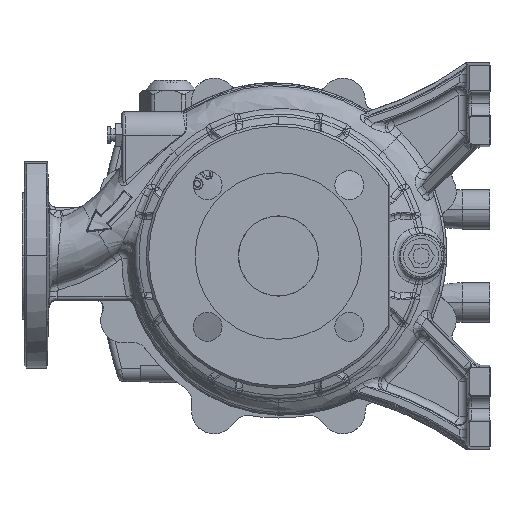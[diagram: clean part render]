
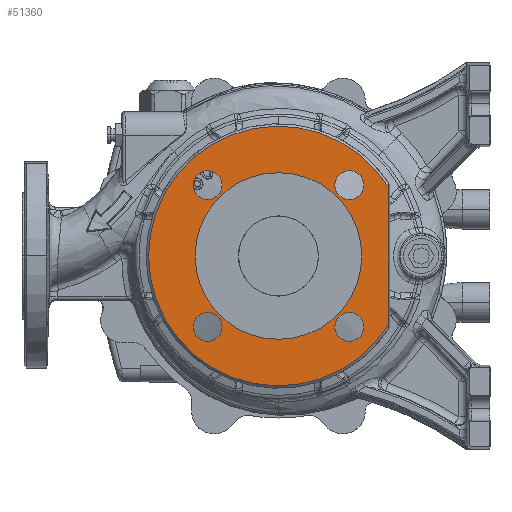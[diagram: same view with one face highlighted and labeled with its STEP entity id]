
A CAD part, left-side view. The second image highlights one B-rep face of the part: STEP entity #51360.
In plain terms, the highlighted planar face has unit normal (-1, 0, 0).
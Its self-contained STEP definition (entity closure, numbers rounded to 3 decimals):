
#2308 = DIRECTION ( 'NONE',  ( -1., 0., 0. ) ) ;
#2569 = CARTESIAN_POINT ( 'NONE',  ( -264.764, 174.395, 44.194 ) ) ;
#3484 = DIRECTION ( 'NONE',  ( 0., 1., 0. ) ) ;
#3525 = CARTESIAN_POINT ( 'NONE',  ( -264.764, 139.201, 0. ) ) ;
#4543 = DIRECTION ( 'NONE',  ( -1., 0., 0. ) ) ;
#5474 = CIRCLE ( 'NONE', #93419, 9. ) ;
#6104 = CIRCLE ( 'NONE', #135653, 9. ) ;
#8086 = VERTEX_POINT ( 'NONE', #48440 ) ;
#8916 = EDGE_CURVE ( 'NONE', #73816, #28839, #91024, .T. ) ;
#8972 = CARTESIAN_POINT ( 'NONE',  ( -264.764, 70.632, 0. ) ) ;
#10230 = FACE_OUTER_BOUND ( 'NONE', #45417, .T. ) ;
#12209 = DIRECTION ( 'NONE',  ( 0., 0., 1. ) ) ;
#12907 = CARTESIAN_POINT ( 'NONE',  ( -264.764, 183.395, 44.194 ) ) ;
#13828 = ORIENTED_EDGE ( 'NONE', *, *, #67674, .F. ) ;
#14171 = CARTESIAN_POINT ( 'NONE',  ( -264.764, 183.395, -44.194 ) ) ;
#17425 = CIRCLE ( 'NONE', #74336, 9. ) ;
#17604 = EDGE_CURVE ( 'NONE', #22963, #73816, #131404, .T. ) ;
#20374 = DIRECTION ( 'NONE',  ( 0., 1., 0. ) ) ;
#22023 = VERTEX_POINT ( 'NONE', #155516 ) ;
#22963 = VERTEX_POINT ( 'NONE', #89925 ) ;
#23205 = DIRECTION ( 'NONE',  ( 0., 1., 0. ) ) ;
#23330 = VERTEX_POINT ( 'NONE', #116431 ) ;
#24047 = EDGE_LOOP ( 'NONE', ( #13828, #144142 ) ) ;
#28839 = VERTEX_POINT ( 'NONE', #88974 ) ;
#28936 = CARTESIAN_POINT ( 'NONE',  ( -264.764, 192.395, -44.194 ) ) ;
#29852 = EDGE_CURVE ( 'NONE', #96187, #8086, #109710, .T. ) ;
#30057 = EDGE_CURVE ( 'NONE', #23330, #119607, #6104, .T. ) ;
#31951 = CARTESIAN_POINT ( 'NONE',  ( -264.764, 191.201, 0. ) ) ;
#32534 = CARTESIAN_POINT ( 'NONE',  ( -264.764, 95.007, 44.194 ) ) ;
#33669 = AXIS2_PLACEMENT_3D ( 'NONE', #12907, #74488, #89015 ) ;
#34547 = FACE_BOUND ( 'NONE', #24047, .T. ) ;
#35386 = DIRECTION ( 'NONE',  ( -1., 0., 0. ) ) ;
#35720 = CARTESIAN_POINT ( 'NONE',  ( -264.764, 86.007, -44.194 ) ) ;
#36952 = AXIS2_PLACEMENT_3D ( 'NONE', #146467, #35386, #23205 ) ;
#38919 = DIRECTION ( 'NONE',  ( 0., 1., 0. ) ) ;
#38971 = VERTEX_POINT ( 'NONE', #28936 ) ;
#40008 = DIRECTION ( 'NONE',  ( -1., 0., 0. ) ) ;
#40206 = AXIS2_PLACEMENT_3D ( 'NONE', #127315, #137886, #137096 ) ;
#40510 = DIRECTION ( 'NONE',  ( 0., 1., 0. ) ) ;
#41249 = CARTESIAN_POINT ( 'NONE',  ( -264.764, 95.007, 53.194 ) ) ;
#43068 = AXIS2_PLACEMENT_3D ( 'NONE', #14171, #66758, #88688 ) ;
#43507 = CARTESIAN_POINT ( 'NONE',  ( -264.764, 220.201, 0. ) ) ;
#45301 = ORIENTED_EDGE ( 'NONE', *, *, #109708, .T. ) ;
#45417 = EDGE_LOOP ( 'NONE', ( #101830, #153378, #74626 ) ) ;
#47475 = FACE_BOUND ( 'NONE', #62617, .T. ) ;
#48123 = ORIENTED_EDGE ( 'NONE', *, *, #97993, .T. ) ;
#48440 = CARTESIAN_POINT ( 'NONE',  ( -264.764, 87.201, 0. ) ) ;
#49208 = EDGE_CURVE ( 'NONE', #115737, #60529, #5474, .T. ) ;
#51331 = CARTESIAN_POINT ( 'NONE',  ( -264.764, 95.007, -44.194 ) ) ;
#51360 = ADVANCED_FACE ( 'NONE', ( #34547, #83977, #10230, #59645, #158606, #47475 ), #96980, .T. ) ;
#51840 = DIRECTION ( 'NONE',  ( -1., 0., 0. ) ) ;
#56862 = EDGE_CURVE ( 'NONE', #59321, #38971, #112617, .T. ) ;
#57288 = DIRECTION ( 'NONE',  ( 1., 0., 0. ) ) ;
#59321 = VERTEX_POINT ( 'NONE', #110160 ) ;
#59645 = FACE_BOUND ( 'NONE', #61581, .T. ) ;
#60017 = DIRECTION ( 'NONE',  ( 0., 1., 0. ) ) ;
#60529 = VERTEX_POINT ( 'NONE', #134521 ) ;
#61581 = EDGE_LOOP ( 'NONE', ( #78783, #124566 ) ) ;
#62617 = EDGE_LOOP ( 'NONE', ( #45301, #48123 ) ) ;
#66758 = DIRECTION ( 'NONE',  ( -1., 0., 0. ) ) ;
#67674 = EDGE_CURVE ( 'NONE', #38971, #59321, #131070, .T. ) ;
#69011 = EDGE_CURVE ( 'NONE', #60529, #115737, #17425, .T. ) ;
#71055 = CARTESIAN_POINT ( 'NONE',  ( -264.764, 95.007, 44.194 ) ) ;
#73795 = CARTESIAN_POINT ( 'NONE',  ( -264.764, 95.007, -44.194 ) ) ;
#73816 = VERTEX_POINT ( 'NONE', #43507 ) ;
#74336 = AXIS2_PLACEMENT_3D ( 'NONE', #73795, #146868, #60017 ) ;
#74488 = DIRECTION ( 'NONE',  ( 1., 0., 0. ) ) ;
#74626 = ORIENTED_EDGE ( 'NONE', *, *, #8916, .T. ) ;
#75692 = DIRECTION ( 'NONE',  ( 0., 1., 0. ) ) ;
#76981 = CARTESIAN_POINT ( 'NONE',  ( -264.764, 139.201, 0. ) ) ;
#78315 = ORIENTED_EDGE ( 'NONE', *, *, #49208, .T. ) ;
#78783 = ORIENTED_EDGE ( 'NONE', *, *, #87834, .F. ) ;
#79880 = DIRECTION ( 'NONE',  ( 0., 1., 0. ) ) ;
#81938 = EDGE_LOOP ( 'NONE', ( #159411, #78315 ) ) ;
#81972 = DIRECTION ( 'NONE',  ( 1., 0., 0. ) ) ;
#83265 = ORIENTED_EDGE ( 'NONE', *, *, #30057, .T. ) ;
#83977 = FACE_BOUND ( 'NONE', #81938, .T. ) ;
#86263 = VERTEX_POINT ( 'NONE', #2569 ) ;
#87834 = EDGE_CURVE ( 'NONE', #8086, #96187, #93040, .T. ) ;
#88688 = DIRECTION ( 'NONE',  ( 0., 1., 0. ) ) ;
#88974 = CARTESIAN_POINT ( 'NONE',  ( -264.764, 70.632, -43.12 ) ) ;
#89015 = DIRECTION ( 'NONE',  ( 0., 1., 0. ) ) ;
#89925 = CARTESIAN_POINT ( 'NONE',  ( -264.764, 70.632, 43.12 ) ) ;
#91024 = CIRCLE ( 'NONE', #111783, 81. ) ;
#93040 = CIRCLE ( 'NONE', #139736, 52. ) ;
#93419 = AXIS2_PLACEMENT_3D ( 'NONE', #51331, #151898, #3484 ) ;
#96187 = VERTEX_POINT ( 'NONE', #31951 ) ;
#96980 = PLANE ( 'NONE',  #36952 ) ;
#97993 = EDGE_CURVE ( 'NONE', #86263, #22023, #128278, .T. ) ;
#99687 = AXIS2_PLACEMENT_3D ( 'NONE', #126987, #4543, #79880 ) ;
#101346 = CARTESIAN_POINT ( 'NONE',  ( -264.764, 139.201, 0. ) ) ;
#101830 = ORIENTED_EDGE ( 'NONE', *, *, #103836, .T. ) ;
#103586 = CIRCLE ( 'NONE', #33669, 9. ) ;
#103836 = EDGE_CURVE ( 'NONE', #28839, #22963, #132997, .T. ) ;
#109708 = EDGE_CURVE ( 'NONE', #22023, #86263, #103586, .T. ) ;
#109710 = CIRCLE ( 'NONE', #148651, 52. ) ;
#110160 = CARTESIAN_POINT ( 'NONE',  ( -264.764, 174.395, -44.194 ) ) ;
#110992 = DIRECTION ( 'NONE',  ( 0., 1., 0. ) ) ;
#111783 = AXIS2_PLACEMENT_3D ( 'NONE', #76981, #51840, #40510 ) ;
#112617 = CIRCLE ( 'NONE', #99687, 9. ) ;
#115737 = VERTEX_POINT ( 'NONE', #35720 ) ;
#116431 = CARTESIAN_POINT ( 'NONE',  ( -264.764, 95.007, 35.194 ) ) ;
#119607 = VERTEX_POINT ( 'NONE', #41249 ) ;
#120648 = ORIENTED_EDGE ( 'NONE', *, *, #127991, .T. ) ;
#120749 = AXIS2_PLACEMENT_3D ( 'NONE', #32534, #81972, #20374 ) ;
#121200 = VECTOR ( 'NONE', #12209, 1000. ) ;
#121876 = DIRECTION ( 'NONE',  ( -1., 0., 0. ) ) ;
#124566 = ORIENTED_EDGE ( 'NONE', *, *, #29852, .F. ) ;
#126987 = CARTESIAN_POINT ( 'NONE',  ( -264.764, 183.395, -44.194 ) ) ;
#127315 = CARTESIAN_POINT ( 'NONE',  ( -264.764, 183.395, 44.194 ) ) ;
#127991 = EDGE_CURVE ( 'NONE', #119607, #23330, #151800, .T. ) ;
#128278 = CIRCLE ( 'NONE', #40206, 9. ) ;
#130298 = DIRECTION ( 'NONE',  ( 0., 1., 0. ) ) ;
#131070 = CIRCLE ( 'NONE', #43068, 9. ) ;
#131404 = CIRCLE ( 'NONE', #152464, 81. ) ;
#132997 = LINE ( 'NONE', #8972, #121200 ) ;
#134521 = CARTESIAN_POINT ( 'NONE',  ( -264.764, 104.007, -44.194 ) ) ;
#135653 = AXIS2_PLACEMENT_3D ( 'NONE', #71055, #57288, #130298 ) ;
#137096 = DIRECTION ( 'NONE',  ( 0., 1., 0. ) ) ;
#137191 = EDGE_LOOP ( 'NONE', ( #83265, #120648 ) ) ;
#137886 = DIRECTION ( 'NONE',  ( 1., 0., 0. ) ) ;
#139736 = AXIS2_PLACEMENT_3D ( 'NONE', #3525, #40008, #75692 ) ;
#144142 = ORIENTED_EDGE ( 'NONE', *, *, #56862, .F. ) ;
#146467 = CARTESIAN_POINT ( 'NONE',  ( -264.764, 139.201, 0. ) ) ;
#146868 = DIRECTION ( 'NONE',  ( 1., 0., 0. ) ) ;
#147522 = CARTESIAN_POINT ( 'NONE',  ( -264.764, 139.201, 0. ) ) ;
#148651 = AXIS2_PLACEMENT_3D ( 'NONE', #147522, #2308, #110992 ) ;
#151800 = CIRCLE ( 'NONE', #120749, 9. ) ;
#151898 = DIRECTION ( 'NONE',  ( 1., 0., 0. ) ) ;
#152464 = AXIS2_PLACEMENT_3D ( 'NONE', #101346, #121876, #38919 ) ;
#153378 = ORIENTED_EDGE ( 'NONE', *, *, #17604, .T. ) ;
#155516 = CARTESIAN_POINT ( 'NONE',  ( -264.764, 192.395, 44.194 ) ) ;
#158606 = FACE_BOUND ( 'NONE', #137191, .T. ) ;
#159411 = ORIENTED_EDGE ( 'NONE', *, *, #69011, .T. ) ;
